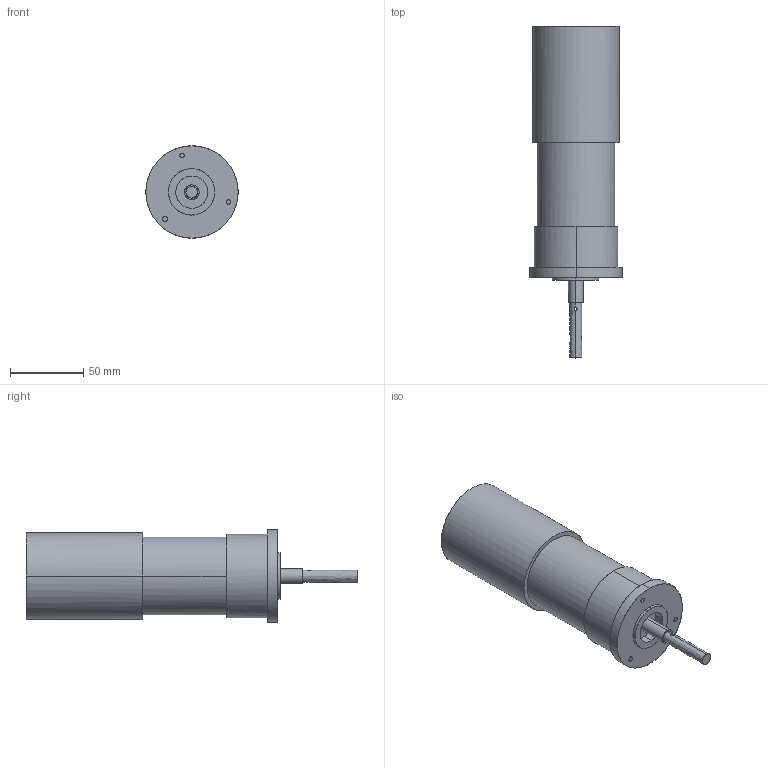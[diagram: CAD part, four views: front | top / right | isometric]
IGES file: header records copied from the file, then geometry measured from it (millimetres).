
Start section: Comment
Global section: file name: LT0205-12GB.igs; native system:  By UGS Corp.; preprocessor: XPlus GENERIC/IGES 3.0; author: Author; organization: Title; date: 20150119.133053; units: millimetre
Bounding box: 62.92 x 226.5 x 63 mm (x, y, z)
Surface area: 40642.3 mm2 (no closed solid volume)
Topology: 0 solids, 0 shells, 36 faces, 156 edges, 156 vertices
Faces by surface type: bspline 36
